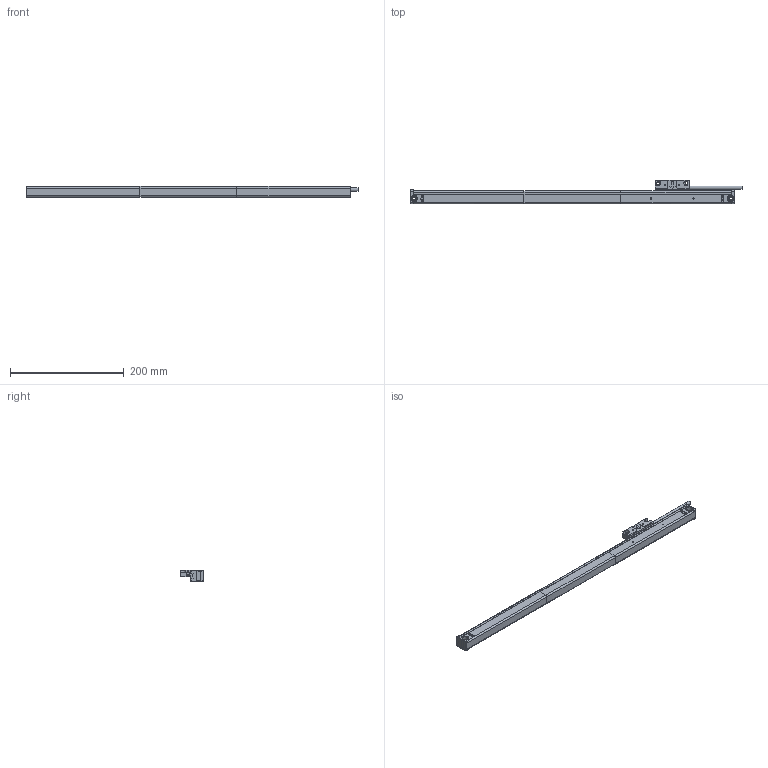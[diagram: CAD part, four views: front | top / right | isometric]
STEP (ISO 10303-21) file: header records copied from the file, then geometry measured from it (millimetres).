
FILE_DESCRIPTION( ( 'STEP AP203' ), '1' );
FILE_NAME( 'N:/Engineering/CAD_Solid/Magnescale/GBER/GB-045ER_SR138-045R.stp', '2013-03-14T10:07:24', ( ' ' ), ( ' ' ), 'XStep 1.0', ' ', ' ' );
FILE_SCHEMA( ( 'CONFIG_CONTROL_DESIGN) ( )' ) );
Length unit declared in the file: metre
Products named in the file (1): 1
Bounding box: 582.5 x 42 x 21 mm (x, y, z)
Surface area: 61698.2 mm2 (no closed solid volume)
Topology: 0 solids, 306 shells, 306 faces, 1641 edges, 1602 vertices
Faces by surface type: plane 196, cylinder 87, torus 12, cone 10, extrusion 1
Full cylindrical faces by diameter (mm): 2.013 x2, 2.113 x2, 3.242 x2, 4 x8, 4.8 x2, 5 x2, 5.8 x2, 6 x1, 9.8 x2, 10 x2
Entity records: 15896 total; most frequent: CARTESIAN_POINT 3535, DIRECTION 2669, ORIENTED_EDGE 1589, EDGE_CURVE 1589, VERTEX_POINT 1589, VECTOR 1117, LINE 1116, AXIS2_PLACEMENT_3D 776
